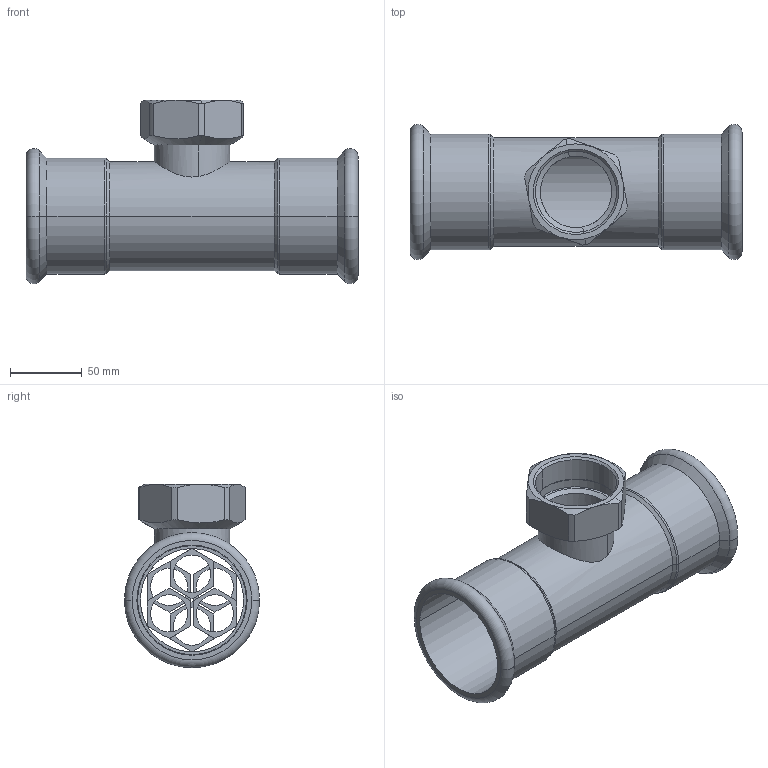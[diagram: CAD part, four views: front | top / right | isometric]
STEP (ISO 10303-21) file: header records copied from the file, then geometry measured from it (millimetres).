
FILE_DESCRIPTION(('OneSpaceDesigner STEP Export'),'2;1');
FILE_NAME('R2718 76xRp2x76.stp','2010-06-10T12:40:15',(''),(''),'OneSpace Designer STEP processor for AP214 (Solid Model)','OneSpace Modeling 15.00A 14-Mar-2007 (C) CoCreate Software GmbH','');
FILE_SCHEMA(('AUTOMOTIVE_DESIGN { 1 0 10303 214 1 1 1 1 }'));
Length unit declared in the file: millimetre
Products named in the file (2): R2718_76xRp2x76
Assembly tree (1 placements, depth 2):
  R2718_76xRp2x76
    R2718_76xRp2x76
Bounding box: 232 x 94.48 x 128.24 mm (x, y, z)
Volume: 192576.2 mm3; surface area: 142847.3 mm2
Topology: 1 solids, 1 shells, 148 faces, 368 edges, 234 vertices
Faces by surface type: plane 68, cylinder 48, cone 24, torus 8
Entity records: 6241 total; most frequent: CARTESIAN_POINT 3036, ORIENTED_EDGE 736, DIRECTION 538, EDGE_CURVE 368, VERTEX_POINT 234, VECTOR 204, LINE 204, EDGE_LOOP 176
